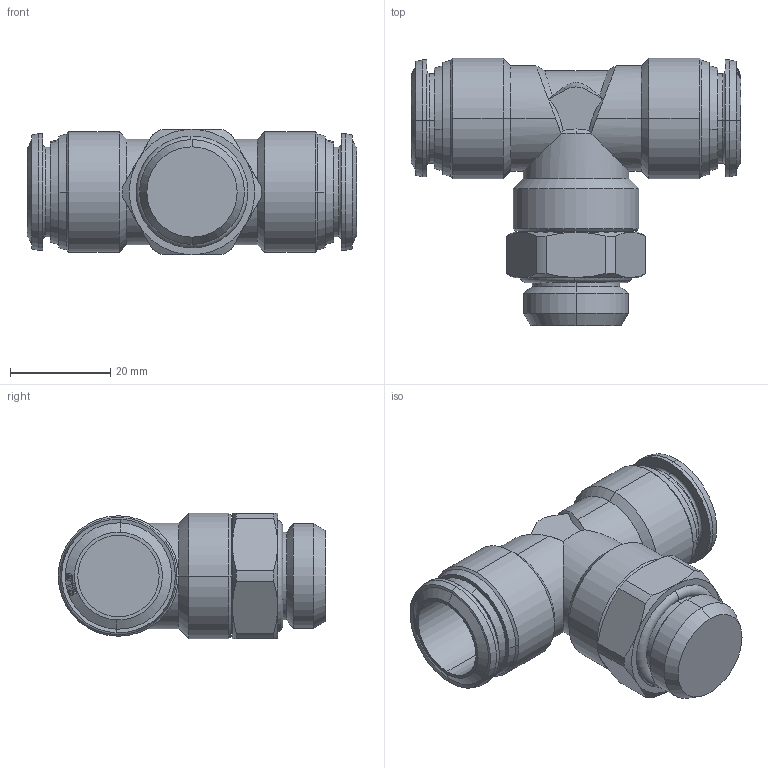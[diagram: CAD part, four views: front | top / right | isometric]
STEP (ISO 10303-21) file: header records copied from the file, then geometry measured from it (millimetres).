
FILE_DESCRIPTION (( 'STEP AP214' ), '1' );
FILE_NAME ('5021600026A.STEP', '2024-06-18T07:39:20', ( '' ), ( '' ), 'SwSTEP 2.0', 'SolidWorks 2020', '' );
FILE_SCHEMA (( 'AUTOMOTIVE_DESIGN' ));
Length unit declared in the file: mil
Products named in the file (1): 5021600026A
Bounding box: 65.6 x 53.3 x 25 mm (x, y, z)
Volume: 29081 mm3; surface area: 11505.9 mm2
Topology: 1 solids, 1 shells, 226 faces, 545 edges, 344 vertices
Faces by surface type: bspline 84, cone 69, cylinder 37, plane 30, torus 6
Entity records: 13133 total; most frequent: CARTESIAN_POINT 8445, ORIENTED_EDGE 1090, DIRECTION 731, EDGE_CURVE 545, VERTEX_POINT 344, AXIS2_PLACEMENT_3D 280, EDGE_LOOP 249, FACE_OUTER_BOUND 226
